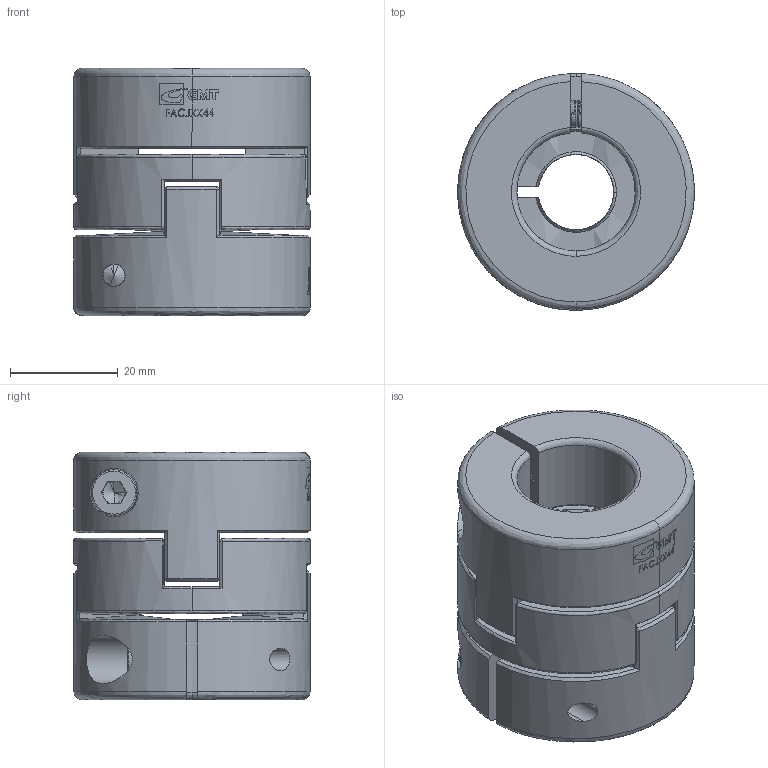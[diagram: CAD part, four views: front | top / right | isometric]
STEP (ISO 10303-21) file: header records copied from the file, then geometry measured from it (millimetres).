
FILE_DESCRIPTION (( 'STEP AP203' ), '1' );
FILE_NAME ('FACJ44.STEP', '2008-04-04T08:25:38', ( '陳志豪' ), ( '高明鐵企業股份有限公司' ), 'SwSTEP 2.0', 'SolidWorks 2007', '' );
FILE_SCHEMA (( 'CONFIG_CONTROL_DESIGN' ));
Length unit declared in the file: millimetre
Products named in the file (1): FACJ44
Bounding box: 44 x 44 x 46 mm (x, y, z)
Surface area: 18008.1 mm2 (no closed solid volume)
Topology: 0 solids, 9 shells, 314 faces, 969 edges, 671 vertices
Faces by surface type: plane 140, cylinder 74, bspline 57, cone 43
Entity records: 14309 total; most frequent: CARTESIAN_POINT 6981, ORIENTED_EDGE 1833, EDGE_CURVE 955, DIRECTION 941, VERTEX_POINT 663, B_SPLINE_CURVE_WITH_KNOTS 597, EDGE_LOOP 352, AXIS2_PLACEMENT_3D 341
